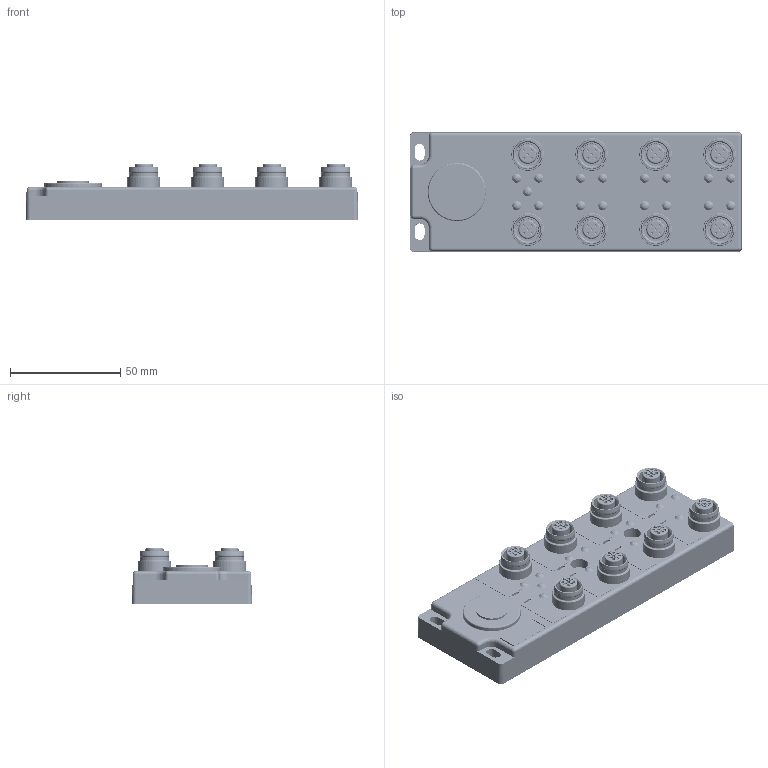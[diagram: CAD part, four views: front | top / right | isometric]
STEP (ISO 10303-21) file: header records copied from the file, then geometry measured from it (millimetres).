
FILE_DESCRIPTION(/* description */ (''),/* implementation_level */ '2;1');
FILE_NAME(/* name */ 'L:\CAD Inventor\Workspace\Catalogs\TURCK BOXES\8MB12Z-Cable_BL.stp',/* time_stamp */ '2021-06-28T09:20:34-05:00',/* author */ ('RSwans'),/* organization */ (''),/* preprocessor_version */ 'ST-DEVELOPER v16.5',/* originating_system */ 'Autodesk Inventor 2017',/* authorisation */ '');
FILE_SCHEMA (('AUTOMOTIVE_DESIGN { 1 0 10303 214 3 1 1 }'));
Products named in the file (1): Part2
Bounding box: 150.45 x 54.24 x 25.55 mm (x, y, z)
Volume: 101669.2 mm3; surface area: 64169.6 mm2
Topology: 1 solids, 168 shells, 4164 faces, 11361 edges, 7298 vertices
Faces by surface type: cylinder 2169, plane 1415, torus 268, cone 261, bspline 45, sphere 6
Full cylindrical faces by diameter (mm): 1 x40, 1.1 x40, 1.3 x40, 1.5 x72, 1.6 x40, 1.7 x120, 2 x72, 4 x33, 4.5 x2, 5 x17, 5.1 x15, 6.6 x1, 7 x8, 7.5 x1, 8 x2, 9.45 x8, 9.5 x16, 9.6 x8, 10 x1, 10.4 x4, 11 x16, 12.4 x8, 12.8 x8, 13 x8, 13.4 x8, 14.3 x1, 14.45 x8, 14.8 x8, 26.2 x1
Entity records: 137003 total; most frequent: CARTESIAN_POINT 25960, DIRECTION 24718, ORIENTED_EDGE 20896, AXIS2_PLACEMENT_3D 10474, EDGE_CURVE 10414, VERTEX_POINT 6932, CIRCLE 6110, EDGE_LOOP 5290
